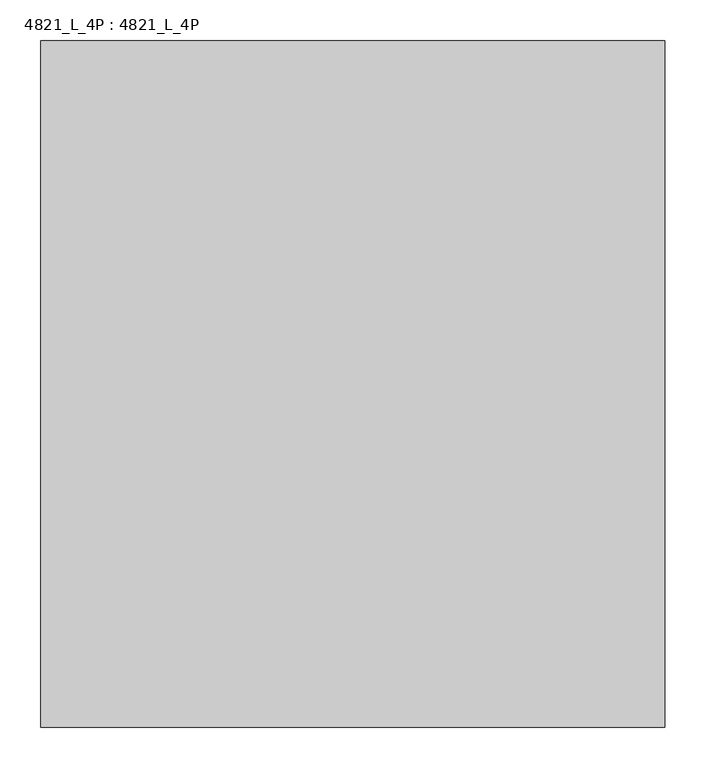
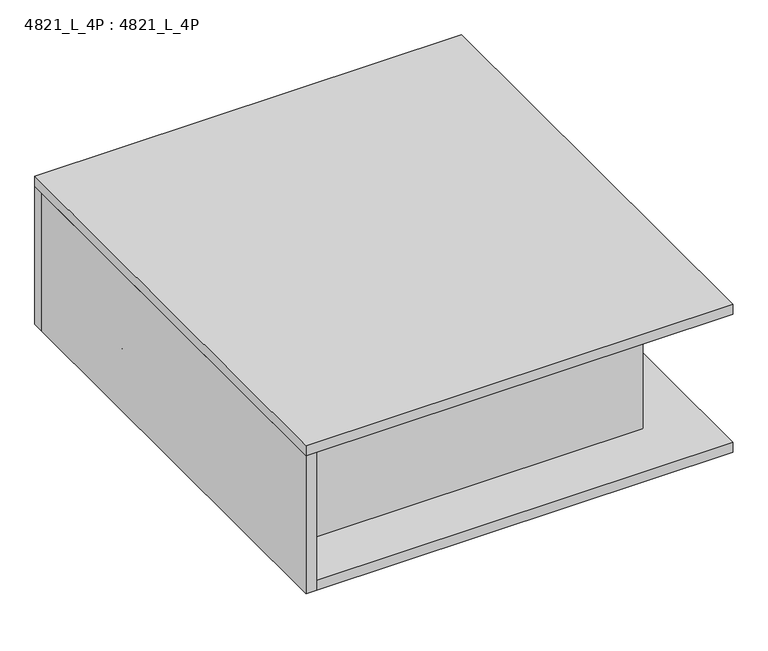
"""IFC4 building model written with IfcOpenShell, lengths in millimetres: furniture geometry, 4821_L_4P : 4821_L_4P."""

from ifc_helpers import new_model, si_unit, point, frame, frame_2d, origin, place, context, project, spatial, polyline, circle_curve, ellipse_curve, trimmed, segment, composite_curve, outline, extrude, source, transform, mapped, element, save
from ifc_brep_helpers import plane_surface, cylinder_surface, revolved_surface, advanced_brep


def furniture_4821_l_4p_4821_l_4p_9e18c049(model_context):
    return source(origin(), model_context, "Body", "SolidModel", [
        extrude(outline(composite_curve([segment(trimmed(circle_curve(frame_2d((625.475, -136.525)), 1.905), [point((625.475, -138.43))], [point((623.57, -136.525))], False, "CARTESIAN"), True, "CONTINUOUS"), segment(polyline([(623.57, -136.525), (623.57, -41.275)]), True, "CONTINUOUS"), segment(trimmed(circle_curve(frame_2d((625.475, -41.275)), 1.905), [point((623.57, -41.275))], [point((625.475, -39.37))], False, "CARTESIAN"), True, "CONTINUOUS"), segment(polyline([(625.475, -39.37), (720.725, -39.37)]), True, "CONTINUOUS"), segment(trimmed(circle_curve(frame_2d((720.725, -41.275)), 1.905), [point((720.725, -39.37))], [point((722.63, -41.275))], False, "CARTESIAN"), True, "CONTINUOUS"), segment(polyline([(722.63, -41.275), (722.63, -136.525)]), True, "CONTINUOUS"), segment(trimmed(circle_curve(frame_2d((720.725, -136.525)), 1.905), [point((722.63, -136.525))], [point((720.725, -138.43))], False, "CARTESIAN"), True, "CONTINUOUS"), segment(polyline([(720.725, -138.43), (625.475, -138.43)]), True, "CONTINUOUS")], self_intersect=False)), frame((0.0, 0.0, 9.8425), z_axis=(0.0, 0.0, 1.0), x_axis=(1.0, 0.0, 0.0)), (0.0, 0.0, 1.0), 1.27),
        advanced_brep(
        [(662.9478666, -88.9, 0.0), (683.2521334, -88.9, 0.0), (673.1, -88.9, 0.0), (662.6225, -88.9, 5.08), (683.5775, -88.9, 5.08), (662.6225, -88.9, 9.0481974), (683.5775, -88.9, 9.0481974), (663.4168026, -88.9, 9.8425), (682.7831974, -88.9, 9.8425), (673.1, -88.9, 9.8425)],
        [
            (0, 1, circle_curve(frame((673.1, -88.9, 0.0), z_axis=(0.0, 0.0, -1.0), x_axis=(1.0, 0.0, 0.0)), 10.1521334)),
            (1, 2),
            (2, 0),
            (1, 0, circle_curve(frame((673.1, -88.9, 0.0), z_axis=(0.0, 0.0, -1.0), x_axis=(1.0, 0.0, 0.0)), 10.1521334)),
            (3, 4, circle_curve(frame((673.1, -88.9, 5.08), z_axis=(0.0, 0.0, -1.0), x_axis=(1.0, 0.0, 0.0)), 10.4775)),
            (4, 1, circle_curve(frame((683.2521334, -88.9, 2.5504196), z_axis=(0.0, 1.0, 0.0), x_axis=(1.0, 0.0, 0.0)), 2.5504196)),
            (0, 3, circle_curve(frame((662.9478666, -88.9, 2.5504196), z_axis=(0.0, 1.0, 0.0), x_axis=(-1.0, 0.0, 0.0)), 2.5504196)),
            (4, 3, circle_curve(frame((673.1, -88.9, 5.08), z_axis=(0.0, 0.0, -1.0), x_axis=(1.0, 0.0, 0.0)), 10.4775)),
            (5, 6, circle_curve(frame((673.1, -88.9, 9.0481974), z_axis=(0.0, 0.0, -1.0), x_axis=(1.0, 0.0, 0.0)), 10.4775)),
            (6, 4),
            (3, 5),
            (6, 5, circle_curve(frame((673.1, -88.9, 9.0481974), z_axis=(0.0, 0.0, -1.0), x_axis=(1.0, 0.0, 0.0)), 10.4775)),
            (7, 8, circle_curve(frame((673.1, -88.9, 9.8425), z_axis=(0.0, 0.0, -1.0), x_axis=(1.0, 0.0, 0.0)), 9.6831974)),
            (8, 6, circle_curve(frame((682.7831974, -88.9, 9.0481974), z_axis=(0.0, 1.0, 0.0), x_axis=(1.0, 0.0, 0.0)), 0.7943026)),
            (5, 7, circle_curve(frame((663.4168026, -88.9, 9.0481974), z_axis=(0.0, 1.0, 0.0), x_axis=(-1.0, 0.0, 0.0)), 0.7943026)),
            (8, 7, circle_curve(frame((673.1, -88.9, 9.8425), z_axis=(0.0, 0.0, -1.0), x_axis=(1.0, 0.0, 0.0)), 9.6831974)),
            (9, 8),
            (7, 9),
        ],
        [
            plane_surface(frame((673.1, -88.9, 0.0), z_axis=(0.0, 0.0, -1.0), x_axis=(1.0, 0.0, 0.0))),
            revolved_surface(trimmed(ellipse_curve(frame((683.2521334, -88.9, 2.5504196), z_axis=(0.0, -1.0, 0.0), x_axis=(1.0, 0.0, 0.0)), 2.5504196, 2.5504196), [point((683.2521334, -88.9, 0.0))], [point((683.5775, -88.9, 5.08))], True, "CARTESIAN"), (673.1, -88.9, 9.8425), (0.0, 0.0, 1.0)),
            cylinder_surface(frame((673.1, -88.9, 9.8425), z_axis=(0.0, 0.0, 1.0), x_axis=(1.0, 0.0, 0.0)), 10.4775),
            revolved_surface(trimmed(ellipse_curve(frame((682.7831974, -88.9, 9.0481974), z_axis=(0.0, -1.0, 0.0), x_axis=(1.0, 0.0, 0.0)), 0.7943026, 0.7943026), [point((683.5775, -88.9, 9.0481974))], [point((682.7831974, -88.9, 9.8425))], True, "CARTESIAN"), (673.1, -88.9, 9.8425), (0.0, 0.0, 1.0)),
            plane_surface(frame((673.1, -88.9, 9.8425), z_axis=(0.0, 0.0, 1.0), x_axis=(1.0, 0.0, 0.0))),
        ],
        [
            (0, [[1, 2, 3]]),
            (0, [[4, -3, -2]]),
            (1, [[5, 6, -1, 7]]),
            (1, [[8, -7, -4, -6]]),
            (2, [[9, 10, -5, 11]]),
            (2, [[12, -11, -8, -10]]),
            (3, [[13, 14, -9, 15]]),
            (3, [[16, -15, -12, -14]]),
            (4, [[17, -13, 18]]),
            (4, [[-18, -16, -17]]),
        ],
    ),
        advanced_brep(
        [(155.575, -38.1, 41.5925), (60.325, -38.1, 41.5925), (57.15, -41.275, 41.5925), (57.15, -136.525, 41.5925), (60.325, -139.7, 41.5925), (155.575, -139.7, 41.5925), (158.75, -136.525, 41.5925), (158.75, -41.275, 41.5925), (58.42, -41.275, 11.1125), (60.325, -39.37, 11.1125), (155.575, -39.37, 11.1125), (157.48, -41.275, 11.1125), (157.48, -136.525, 11.1125), (155.575, -138.43, 11.1125), (60.325, -138.43, 11.1125), (58.42, -136.525, 11.1125), (155.575, -38.1, 11.1125), (60.325, -38.1, 11.1125), (57.15, -41.275, 11.1125), (57.15, -136.525, 11.1125), (60.325, -139.7, 11.1125), (155.575, -139.7, 11.1125), (158.75, -136.525, 11.1125), (158.75, -41.275, 11.1125), (60.325, -39.37, 9.8425), (58.42, -41.275, 9.8425), (155.575, -39.37, 9.8425), (157.48, -41.275, 9.8425), (157.48, -136.525, 9.8425), (155.575, -138.43, 9.8425), (60.325, -138.43, 9.8425), (58.42, -136.525, 9.8425)],
        [
            (0, 1),
            (1, 2, circle_curve(frame((60.325, -41.275, 41.5925), z_axis=(0.0, 0.0, 1.0), x_axis=(1.0, 0.0, 0.0)), 3.175)),
            (2, 3),
            (3, 4, circle_curve(frame((60.325, -136.525, 41.5925), z_axis=(0.0, 0.0, 1.0), x_axis=(1.0, 0.0, 0.0)), 3.175)),
            (4, 5),
            (5, 6, circle_curve(frame((155.575, -136.525, 41.5925), z_axis=(0.0, 0.0, 1.0), x_axis=(1.0, 0.0, 0.0)), 3.175)),
            (6, 7),
            (7, 0, circle_curve(frame((155.575, -41.275, 41.5925), z_axis=(0.0, 0.0, 1.0), x_axis=(1.0, 0.0, 0.0)), 3.175)),
            (8, 9, circle_curve(frame((60.325, -41.275, 11.1125), z_axis=(0.0, 0.0, -1.0), x_axis=(-1.0, 0.0, 0.0)), 1.905)),
            (9, 10),
            (10, 11, circle_curve(frame((155.575, -41.275, 11.1125), z_axis=(0.0, 0.0, -1.0), x_axis=(0.0, 1.0, 0.0)), 1.905)),
            (11, 12),
            (12, 13, circle_curve(frame((155.575, -136.525, 11.1125), z_axis=(0.0, 0.0, -1.0), x_axis=(1.0, 0.0, 0.0)), 1.905)),
            (13, 14),
            (14, 15, circle_curve(frame((60.325, -136.525, 11.1125), z_axis=(0.0, 0.0, -1.0), x_axis=(0.0, -1.0, 0.0)), 1.905)),
            (15, 8),
            (0, 16),
            (16, 17),
            (17, 1),
            (17, 18, circle_curve(frame((60.325, -41.275, 11.1125), z_axis=(0.0, 0.0, 1.0), x_axis=(1.0, 0.0, 0.0)), 3.175)),
            (18, 2),
            (18, 19),
            (19, 3),
            (19, 20, circle_curve(frame((60.325, -136.525, 11.1125), z_axis=(0.0, 0.0, 1.0), x_axis=(1.0, 0.0, 0.0)), 3.175)),
            (20, 4),
            (20, 21),
            (21, 5),
            (21, 22, circle_curve(frame((155.575, -136.525, 11.1125), z_axis=(0.0, 0.0, 1.0), x_axis=(1.0, 0.0, 0.0)), 3.175)),
            (22, 6),
            (22, 23),
            (23, 7),
            (23, 16, circle_curve(frame((155.575, -41.275, 11.1125), z_axis=(0.0, 0.0, 1.0), x_axis=(1.0, 0.0, 0.0)), 3.175)),
            (24, 25, circle_curve(frame((60.325, -41.275, 9.8425), z_axis=(0.0, 0.0, 1.0), x_axis=(-1.0, 0.0, 0.0)), 1.905)),
            (25, 18, circle_curve(frame((58.42, -41.275, 11.1125), z_axis=(0.0, 1.0, 0.0), x_axis=(1.0, 0.0, 0.0)), 1.27)),
            (17, 24, circle_curve(frame((60.325, -39.37, 11.1125), z_axis=(-1.0, 0.0, 0.0), x_axis=(0.0, -1.0, 0.0)), 1.27)),
            (16, 26, circle_curve(frame((155.575, -39.37, 11.1125), z_axis=(-1.0, 0.0, 0.0), x_axis=(0.0, -1.0, 0.0)), 1.27)),
            (26, 24),
            (23, 27, circle_curve(frame((157.48, -41.275, 11.1125), z_axis=(0.0, 1.0, 0.0), x_axis=(-1.0, 0.0, 0.0)), 1.27)),
            (27, 26, circle_curve(frame((155.575, -41.275, 9.8425), z_axis=(0.0, 0.0, 1.0), x_axis=(0.0, 1.0, 0.0)), 1.905)),
            (22, 28, circle_curve(frame((157.48, -136.525, 11.1125), z_axis=(0.0, 1.0, 0.0), x_axis=(-1.0, 0.0, 0.0)), 1.27)),
            (28, 27),
            (21, 29, circle_curve(frame((155.575, -138.43, 11.1125), z_axis=(1.0, 0.0, 0.0), x_axis=(0.0, 1.0, 0.0)), 1.27)),
            (29, 28, circle_curve(frame((155.575, -136.525, 9.8425), z_axis=(0.0, 0.0, 1.0), x_axis=(1.0, 0.0, 0.0)), 1.905)),
            (20, 30, circle_curve(frame((60.325, -138.43, 11.1125), z_axis=(1.0, 0.0, 0.0), x_axis=(0.0, 1.0, 0.0)), 1.27)),
            (30, 29),
            (19, 31, circle_curve(frame((58.42, -136.525, 11.1125), z_axis=(0.0, -1.0, 0.0), x_axis=(1.0, 0.0, 0.0)), 1.27)),
            (31, 30, circle_curve(frame((60.325, -136.525, 9.8425), z_axis=(0.0, 0.0, 1.0), x_axis=(0.0, -1.0, 0.0)), 1.905)),
            (25, 31),
            (24, 9),
            (8, 25),
            (26, 10),
            (27, 11),
            (28, 12),
            (29, 13),
            (30, 14),
            (31, 15),
        ],
        [
            plane_surface(frame((60.325, -38.1, 41.5925), z_axis=(0.0, 0.0, 1.0), x_axis=(-1.0, 0.0, 0.0))),
            plane_surface(frame((60.325, -38.1, 11.1125), z_axis=(0.0, 0.0, -1.0), x_axis=(1.0, 0.0, 0.0))),
            plane_surface(frame((155.575, -38.1, 41.5925), z_axis=(0.0, 1.0, 0.0), x_axis=(0.0, 0.0, -1.0))),
            cylinder_surface(frame((60.325, -41.275, 11.1125), z_axis=(0.0, 0.0, 1.0), x_axis=(1.0, 0.0, 0.0)), 3.175),
            plane_surface(frame((57.15, -41.275, 41.5925), z_axis=(-1.0, 0.0, 0.0), x_axis=(0.0, 0.0, -1.0))),
            cylinder_surface(frame((60.325, -136.525, 11.1125), z_axis=(0.0, 0.0, 1.0), x_axis=(1.0, 0.0, 0.0)), 3.175),
            plane_surface(frame((60.325, -139.7, 41.5925), z_axis=(0.0, -1.0, 0.0), x_axis=(0.0, 0.0, -1.0))),
            cylinder_surface(frame((155.575, -136.525, 11.1125), z_axis=(0.0, 0.0, 1.0), x_axis=(1.0, 0.0, 0.0)), 3.175),
            plane_surface(frame((158.75, -136.525, 41.5925), z_axis=(1.0, 0.0, 0.0), x_axis=(0.0, 0.0, -1.0))),
            cylinder_surface(frame((155.575, -41.275, 11.1125), z_axis=(0.0, 0.0, 1.0), x_axis=(1.0, 0.0, 0.0)), 3.175),
            revolved_surface(trimmed(ellipse_curve(frame((58.42, -41.275, 11.1125), z_axis=(0.0, -1.0, 0.0), x_axis=(1.0, 0.0, 0.0)), 1.27, 1.27), [point((57.15, -41.275, 11.1125))], [point((58.42, -41.275, 9.8425))], True, "CARTESIAN"), (60.325, -41.275, 11.1125), (0.0, 0.0, -1.0)),
            cylinder_surface(frame((60.325, -39.37, 11.1125), z_axis=(-1.0, 0.0, 0.0), x_axis=(0.0, -1.0, 0.0)), 1.27),
            revolved_surface(trimmed(ellipse_curve(frame((155.575, -39.37, 11.1125), z_axis=(-1.0, 0.0, 0.0), x_axis=(0.0, -1.0, 0.0)), 1.27, 1.27), [point((155.575, -38.1, 11.1125))], [point((155.575, -39.37, 9.8425))], True, "CARTESIAN"), (155.575, -41.275, 11.1125), (0.0, 0.0, -1.0)),
            cylinder_surface(frame((157.48, -41.275, 11.1125), z_axis=(0.0, 1.0, 0.0), x_axis=(-1.0, 0.0, 0.0)), 1.27),
            revolved_surface(trimmed(ellipse_curve(frame((157.48, -136.525, 11.1125), z_axis=(0.0, 1.0, 0.0), x_axis=(-1.0, 0.0, 0.0)), 1.27, 1.27), [point((158.75, -136.525, 11.1125))], [point((157.48, -136.525, 9.8425))], True, "CARTESIAN"), (155.575, -136.525, 11.1125), (0.0, 0.0, -1.0)),
            cylinder_surface(frame((155.575, -138.43, 11.1125), z_axis=(1.0, 0.0, 0.0), x_axis=(0.0, 1.0, 0.0)), 1.27),
            revolved_surface(trimmed(ellipse_curve(frame((60.325, -138.43, 11.1125), z_axis=(1.0, 0.0, 0.0), x_axis=(0.0, 1.0, 0.0)), 1.27, 1.27), [point((60.325, -139.7, 11.1125))], [point((60.325, -138.43, 9.8425))], True, "CARTESIAN"), (60.325, -136.525, 11.1125), (0.0, 0.0, -1.0)),
            cylinder_surface(frame((58.42, -136.525, 11.1125), z_axis=(0.0, -1.0, 0.0), x_axis=(1.0, 0.0, 0.0)), 1.27),
            revolved_surface(polyline([(58.42, -41.275, 9.8425), (58.42, -41.275, 11.1125)]), (60.325, -41.275, 11.1125), (0.0, 0.0, -1.0)),
            plane_surface(frame((60.325, -39.37, 9.8425), z_axis=(0.0, -1.0, 0.0), x_axis=(1.0, 0.0, 0.0))),
            revolved_surface(polyline([(155.575, -39.37, 9.8425), (155.575, -39.37, 11.1125)]), (155.575, -41.275, 11.1125), (0.0, 0.0, -1.0)),
            plane_surface(frame((157.48, -41.275, 9.8425), z_axis=(-1.0, 0.0, 0.0), x_axis=(0.0, -1.0, 0.0))),
            revolved_surface(polyline([(157.48, -136.525, 9.8425), (157.48, -136.525, 11.1125)]), (155.575, -136.525, 11.1125), (0.0, 0.0, -1.0)),
            plane_surface(frame((155.575, -138.43, 9.8425), z_axis=(0.0, 1.0, 0.0), x_axis=(-1.0, 0.0, 0.0))),
            revolved_surface(polyline([(60.325, -138.43, 9.8425), (60.325, -138.43, 11.1125)]), (60.325, -136.525, 11.1125), (0.0, 0.0, -1.0)),
            plane_surface(frame((58.42, -136.525, 9.8425), z_axis=(1.0, 0.0, 0.0), x_axis=(0.0, 1.0, 0.0))),
        ],
        [
            (0, [[1, 2, 3, 4, 5, 6, 7, 8]]),
            (1, [[9, 10, 11, 12, 13, 14, 15, 16]]),
            (2, [[-1, 17, 18, 19]]),
            (3, [[-2, -19, 20, 21]]),
            (4, [[-3, -21, 22, 23]]),
            (5, [[-4, -23, 24, 25]]),
            (6, [[-5, -25, 26, 27]]),
            (7, [[-6, -27, 28, 29]]),
            (8, [[-7, -29, 30, 31]]),
            (9, [[-8, -31, 32, -17]]),
            (10, [[33, 34, -20, 35]]),
            (11, [[-35, -18, 36, 37]]),
            (12, [[-36, -32, 38, 39]]),
            (13, [[-38, -30, 40, 41]]),
            (14, [[-40, -28, 42, 43]]),
            (15, [[-42, -26, 44, 45]]),
            (16, [[-44, -24, 46, 47]]),
            (17, [[-34, 48, -46, -22]]),
            (18, [[-33, 49, -9, 50]]),
            (19, [[-37, 51, -10, -49]]),
            (20, [[-39, 52, -11, -51]]),
            (21, [[-41, 53, -12, -52]]),
            (22, [[-43, 54, -13, -53]]),
            (23, [[-45, 55, -14, -54]]),
            (24, [[-47, 56, -15, -55]]),
            (25, [[-48, -50, -16, -56]]),
        ],
    ),
        extrude(outline(composite_curve([segment(trimmed(circle_curve(frame_2d((60.325, -136.525)), 1.905), [point((60.325, -138.43))], [point((58.42, -136.525))], False, "CARTESIAN"), True, "CONTINUOUS"), segment(polyline([(58.42, -136.525), (58.42, -41.275)]), True, "CONTINUOUS"), segment(trimmed(circle_curve(frame_2d((60.325, -41.275)), 1.905), [point((58.42, -41.275))], [point((60.325, -39.37))], False, "CARTESIAN"), True, "CONTINUOUS"), segment(polyline([(60.325, -39.37), (155.575, -39.37)]), True, "CONTINUOUS"), segment(trimmed(circle_curve(frame_2d((155.575, -41.275)), 1.905), [point((155.575, -39.37))], [point((157.48, -41.275))], False, "CARTESIAN"), True, "CONTINUOUS"), segment(polyline([(157.48, -41.275), (157.48, -136.525)]), True, "CONTINUOUS"), segment(trimmed(circle_curve(frame_2d((155.575, -136.525)), 1.905), [point((157.48, -136.525))], [point((155.575, -138.43))], False, "CARTESIAN"), True, "CONTINUOUS"), segment(polyline([(155.575, -138.43), (60.325, -138.43)]), True, "CONTINUOUS")], self_intersect=False)), frame((0.0, 0.0, 9.8425), z_axis=(0.0, 0.0, 1.0), x_axis=(1.0, 0.0, 0.0)), (0.0, 0.0, 1.0), 1.27),
        advanced_brep(
        [(97.7978666, -88.9, 0.0), (118.1021334, -88.9, 0.0), (107.95, -88.9, 0.0), (97.4725, -88.9, 5.08), (118.4275, -88.9, 5.08), (97.4725, -88.9, 9.0481974), (118.4275, -88.9, 9.0481974), (98.2668026, -88.9, 9.8425), (117.6331974, -88.9, 9.8425), (107.95, -88.9, 9.8425)],
        [
            (0, 1, circle_curve(frame((107.95, -88.9, 0.0), z_axis=(0.0, 0.0, -1.0), x_axis=(1.0, 0.0, 0.0)), 10.1521334)),
            (1, 2),
            (2, 0),
            (1, 0, circle_curve(frame((107.95, -88.9, 0.0), z_axis=(0.0, 0.0, -1.0), x_axis=(1.0, 0.0, 0.0)), 10.1521334)),
            (3, 4, circle_curve(frame((107.95, -88.9, 5.08), z_axis=(0.0, 0.0, -1.0), x_axis=(1.0, 0.0, 0.0)), 10.4775)),
            (4, 1, circle_curve(frame((118.1021334, -88.9, 2.5504196), z_axis=(0.0, 1.0, 0.0), x_axis=(1.0, 0.0, 0.0)), 2.5504196)),
            (0, 3, circle_curve(frame((97.7978666, -88.9, 2.5504196), z_axis=(0.0, 1.0, 0.0), x_axis=(-1.0, 0.0, 0.0)), 2.5504196)),
            (4, 3, circle_curve(frame((107.95, -88.9, 5.08), z_axis=(0.0, 0.0, -1.0), x_axis=(1.0, 0.0, 0.0)), 10.4775)),
            (5, 6, circle_curve(frame((107.95, -88.9, 9.0481974), z_axis=(0.0, 0.0, -1.0), x_axis=(1.0, 0.0, 0.0)), 10.4775)),
            (6, 4),
            (3, 5),
            (6, 5, circle_curve(frame((107.95, -88.9, 9.0481974), z_axis=(0.0, 0.0, -1.0), x_axis=(1.0, 0.0, 0.0)), 10.4775)),
            (7, 8, circle_curve(frame((107.95, -88.9, 9.8425), z_axis=(0.0, 0.0, -1.0), x_axis=(1.0, 0.0, 0.0)), 9.6831974)),
            (8, 6, circle_curve(frame((117.6331974, -88.9, 9.0481974), z_axis=(0.0, 1.0, 0.0), x_axis=(1.0, 0.0, 0.0)), 0.7943026)),
            (5, 7, circle_curve(frame((98.2668026, -88.9, 9.0481974), z_axis=(0.0, 1.0, 0.0), x_axis=(-1.0, 0.0, 0.0)), 0.7943026)),
            (8, 7, circle_curve(frame((107.95, -88.9, 9.8425), z_axis=(0.0, 0.0, -1.0), x_axis=(1.0, 0.0, 0.0)), 9.6831974)),
            (9, 8),
            (7, 9),
        ],
        [
            plane_surface(frame((107.95, -88.9, 0.0), z_axis=(0.0, 0.0, -1.0), x_axis=(1.0, 0.0, 0.0))),
            revolved_surface(trimmed(ellipse_curve(frame((118.1021334, -88.9, 2.5504196), z_axis=(0.0, -1.0, 0.0), x_axis=(1.0, 0.0, 0.0)), 2.5504196, 2.5504196), [point((118.1021334, -88.9, 0.0))], [point((118.4275, -88.9, 5.08))], True, "CARTESIAN"), (107.95, -88.9, 9.8425), (0.0, 0.0, 1.0)),
            cylinder_surface(frame((107.95, -88.9, 9.8425), z_axis=(0.0, 0.0, 1.0), x_axis=(1.0, 0.0, 0.0)), 10.4775),
            revolved_surface(trimmed(ellipse_curve(frame((117.6331974, -88.9, 9.0481974), z_axis=(0.0, -1.0, 0.0), x_axis=(1.0, 0.0, 0.0)), 0.7943026, 0.7943026), [point((118.4275, -88.9, 9.0481974))], [point((117.6331974, -88.9, 9.8425))], True, "CARTESIAN"), (107.95, -88.9, 9.8425), (0.0, 0.0, 1.0)),
            plane_surface(frame((107.95, -88.9, 9.8425), z_axis=(0.0, 0.0, 1.0), x_axis=(1.0, 0.0, 0.0))),
        ],
        [
            (0, [[1, 2, 3]]),
            (0, [[4, -3, -2]]),
            (1, [[5, 6, -1, 7]]),
            (1, [[8, -7, -4, -6]]),
            (2, [[9, 10, -5, 11]]),
            (2, [[12, -11, -8, -10]]),
            (3, [[13, 14, -9, 15]]),
            (3, [[16, -15, -12, -14]]),
            (4, [[17, -13, 18]]),
            (4, [[-18, -16, -17]]),
        ],
    ),
        extrude(outline(polyline([(19.05, -736.6), (19.05, -19.05), (660.4, -19.05), (660.4, -736.6), (19.05, -736.6)])), frame((0.0, 0.0, 60.6425), z_axis=(0.0, 0.0, 1.0), x_axis=(1.0, 0.0, 0.0)), (0.0, 0.0, 1.0), 241.3),
        extrude(outline(polyline([(762.0, 0.0), (762.0, -838.2), (0.0, -838.2), (0.0, 0.0), (762.0, 0.0)])), frame((0.0, 0.0, 301.9425), z_axis=(0.0, 0.0, 1.0), x_axis=(1.0, 0.0, 0.0)), (0.0, 0.0, 1.0), 19.05),
        extrude(outline(polyline([(0.0, 0.0), (762.0, 0.0), (762.0, -19.05), (0.0, -19.05), (0.0, 0.0)])), frame((0.0, 0.0, 41.5925), z_axis=(0.0, 0.0, 1.0), x_axis=(1.0, 0.0, 0.0)), (0.0, 0.0, 1.0), 260.35),
        extrude(outline(polyline([(0.0, -838.2), (0.0, -19.05), (19.05, -19.05), (19.05, -838.2), (0.0, -838.2)])), frame((0.0, 0.0, 41.5925), z_axis=(0.0, 0.0, 1.0), x_axis=(1.0, 0.0, 0.0)), (0.0, 0.0, 1.0), 260.35),
        extrude(outline(polyline([(19.05, -19.05), (762.0, -19.05), (762.0, -838.2), (19.05, -838.2), (19.05, -19.05)])), frame((0.0, 0.0, 41.5925), z_axis=(0.0, 0.0, 1.0), x_axis=(1.0, 0.0, 0.0)), (0.0, 0.0, 1.0), 19.05),
    ])


if __name__ == "__main__":
    model = new_model("IFC4")
    model_context = context("Model", 3, world=origin())
    ifc_project = project(units=[si_unit("LENGTHUNIT", "METRE", prefix="MILLI")], contexts=[model_context])
    site = spatial("IfcSite", under=ifc_project)
    building = spatial("IfcBuilding", under=site)
    placement = place(None, origin())
    furniture_4821_l_4p_4821_l_4p_shape = furniture_4821_l_4p_4821_l_4p_9e18c049(model_context)
    element("IfcFurniture", 1, ObjectType="4821_L_4P : 4821_L_4P", at=placement, inside=building, context=model_context, shape_type="MappedRepresentation", body=[
        mapped(furniture_4821_l_4p_4821_l_4p_shape, transform((0.0, 0.0, 0.0), x_axis=(1.0, 0.0, 0.0), y_axis=(0.0, 1.0, 0.0), z_axis=(0.0, 0.0, 1.0))),
    ])
    save(model, "model.ifc")
